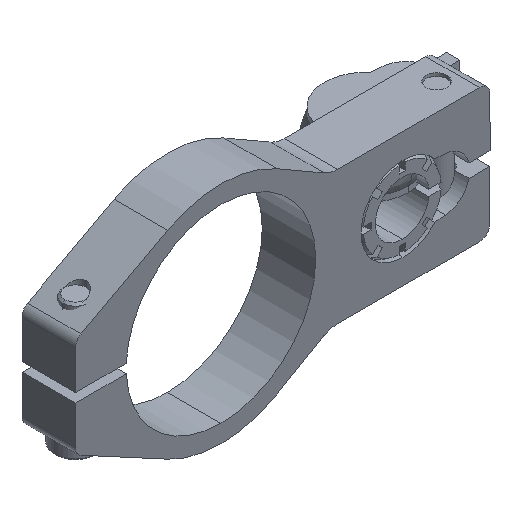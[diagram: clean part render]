
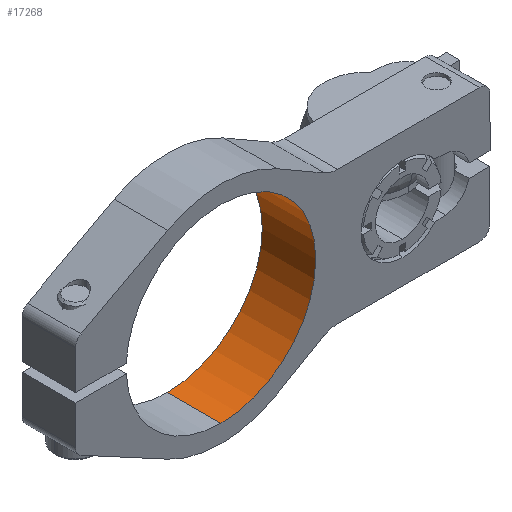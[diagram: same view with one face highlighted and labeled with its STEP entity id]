
A CAD part, isometric view. The second image highlights one B-rep face of the part: STEP entity #17268.
In plain terms, the highlighted cylindrical face has radius 22.504 mm (diameter 45.009 mm), a partial arc.
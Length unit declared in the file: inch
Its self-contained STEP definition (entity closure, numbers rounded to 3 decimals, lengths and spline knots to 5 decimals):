
#1357 = EDGE_CURVE ( 'NONE', #25901, #25833, #25588, .T. ) ;
#1360 = EDGE_CURVE ( 'NONE', #25820, #25901, #25606, .T. ) ;
#1361 = EDGE_CURVE ( 'NONE', #25820, #25813, #25604, .T. ) ;
#1362 = EDGE_CURVE ( 'NONE', #25813, #25833, #25613, .T. ) ;
#2499 = CARTESIAN_POINT ( 'NONE',  ( -3.54244, 0., -0.886 ) ) ;
#2503 = CARTESIAN_POINT ( 'NONE',  ( -3.54244, 0.5, -0.886 ) ) ;
#2510 = CARTESIAN_POINT ( 'NONE',  ( -3.54244, 0., 0.886 ) ) ;
#2553 = CARTESIAN_POINT ( 'NONE',  ( -3.54244, 0.5, 0.886 ) ) ;
#3776 = ORIENTED_EDGE ( 'NONE', *, *, #1357, .F. ) ;
#3778 = ORIENTED_EDGE ( 'NONE', *, *, #1360, .F. ) ;
#3780 = ORIENTED_EDGE ( 'NONE', *, *, #1361, .T. ) ;
#3782 = ORIENTED_EDGE ( 'NONE', *, *, #1362, .T. ) ;
#6464 = FACE_OUTER_BOUND ( 'NONE', #21010, .T. ) ;
#6465 = CYLINDRICAL_SURFACE ( 'NONE', #27160, 0.886 ) ;
#10966 = DIRECTION ( 'NONE',  ( 0., 0., 1. ) ) ;
#10967 = DIRECTION ( 'NONE',  ( 0., -1., 0. ) ) ;
#10969 = CARTESIAN_POINT ( 'NONE',  ( -3.54244, 0., 0. ) ) ;
#10971 = DIRECTION ( 'NONE',  ( 0., -1., 0. ) ) ;
#10972 = CARTESIAN_POINT ( 'NONE',  ( -3.54244, 0.5, -0.886 ) ) ;
#10974 = DIRECTION ( 'NONE',  ( 0., 0., 1. ) ) ;
#10976 = DIRECTION ( 'NONE',  ( 0., -1., 0. ) ) ;
#10977 = CARTESIAN_POINT ( 'NONE',  ( -3.54244, 0.5, 0. ) ) ;
#10989 = DIRECTION ( 'NONE',  ( 0., -1., 0. ) ) ;
#10991 = CARTESIAN_POINT ( 'NONE',  ( -3.54244, 0.5, 0.886 ) ) ;
#17268 = ADVANCED_FACE ( 'NONE', ( #6464 ), #6465, .F. ) ;
#21010 = EDGE_LOOP ( 'NONE', ( #3776, #3778, #3780, #3782 ) ) ;
#22793 = CARTESIAN_POINT ( 'NONE',  ( -3.54244, 0.5, 0. ) ) ;
#22794 = DIRECTION ( 'NONE',  ( 0., -1., 0. ) ) ;
#22795 = DIRECTION ( 'NONE',  ( 0., 0., -1. ) ) ;
#25588 = LINE ( 'NONE', #10991, #25593 ) ;
#25593 = VECTOR ( 'NONE', #10989, 39.37008 ) ;
#25604 = LINE ( 'NONE', #10972, #25608 ) ;
#25606 = CIRCLE ( 'NONE', #26600, 0.886 ) ;
#25608 = VECTOR ( 'NONE', #10971, 39.37008 ) ;
#25613 = CIRCLE ( 'NONE', #26601, 0.886 ) ;
#25813 = VERTEX_POINT ( 'NONE', #2499 ) ;
#25820 = VERTEX_POINT ( 'NONE', #2503 ) ;
#25833 = VERTEX_POINT ( 'NONE', #2510 ) ;
#25901 = VERTEX_POINT ( 'NONE', #2553 ) ;
#26600 = AXIS2_PLACEMENT_3D ( 'NONE', #10977, #10976, #10974 ) ;
#26601 = AXIS2_PLACEMENT_3D ( 'NONE', #10969, #10967, #10966 ) ;
#27160 = AXIS2_PLACEMENT_3D ( 'NONE', #22793, #22794, #22795 ) ;
